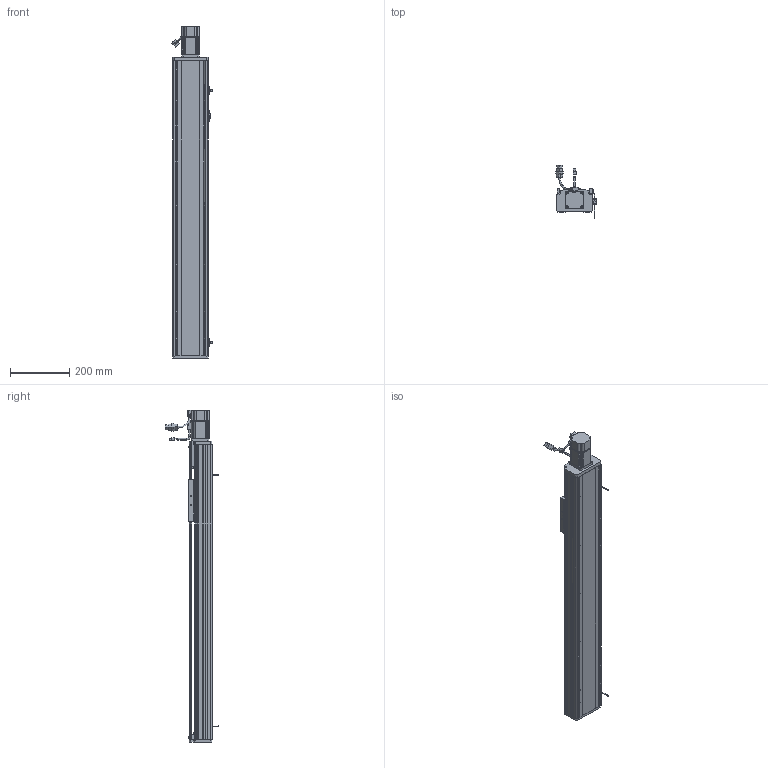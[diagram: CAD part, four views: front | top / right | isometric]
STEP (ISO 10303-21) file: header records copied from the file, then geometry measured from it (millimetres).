
FILE_DESCRIPTION (( 'STEP AP214' ), '1' );
FILE_NAME ('CTH120-750.STEP', '2019-11-20T02:43:09', ( '微软用户' ), ( '微软中国' ), 'SwSTEP 2.0', 'SolidWorks 2017', '' );
FILE_SCHEMA (( 'AUTOMOTIVE_DESIGN' ));
Length unit declared in the file: millimetre
Products named in the file (33): 120模组-盖子_默认<按加工>; M5-L12囀鞠褒蹟佪; 120耀郪-侜督儂啣; 怢湛200W侜督萇儂ECMA-CX0602ES; SFH1605; 盓傅釱蚾饜极; 136蹟簽蟀諉輸; 6000; 120模组-移动座_默认<按加工>; 120耀郪-盓傅釱; SFH1605-450; M4-L16囀鞠褒蹟佪; 120模组-底座_默认<按加工>; EGH15-CA; EGH15_RAIL; CTH120-750; 珨极宒粣創釱; 遣喳蝶15x12x8; M4-L10囀鞠褒蹟佪; M4-L22囀鞠褒蹟佪; 7001-DB; 7001; 噩砃EGH15-CA; 粣創揤啣; M3-L8囀鞠褒蹟佪; COL12B-粣遠; CT12耀郪-覜茼んえ; 坶踡蹟譫; EE-SX672-BR; 120耀郪-粣創釱; M4-L6半圆头内六角螺丝; 120耀郪-傷啣; M5-L20囀鞠褒蹟佪
Assembly tree (90 placements, depth 4):
  CTH120-750
    120模组-底座_默认<按加工>
    SFH1605-450
    120模组-移动座_默认<按加工>
    136蹟簽蟀諉輸
    SFH1605
    120耀郪-侜督儂啣
    120模组-盖子_默认<按加工>
    120耀郪-傷啣
    珨极宒粣創釱
      120耀郪-粣創釱
      坶踡蹟譫
      COL12B-粣遠  x2
      粣創揤啣
      7001-DB
        7001  x2
      M4-L22囀鞠褒蹟佪  x6
      M4-L10囀鞠褒蹟佪  x4
      遣喳蝶15x12x8
    EGH15_RAIL  x2
    EGH15-CA  x2
    M4-L16囀鞠褒蹟佪  x8
    M4-L10囀鞠褒蹟佪  x22
    盓傅釱蚾饜极
      120耀郪-盓傅釱
      6000
      遣喳蝶15x12x8  x2
      M4-L22囀鞠褒蹟佪  x2
    怢湛200W侜督萇儂ECMA-CX0602ES
    M5-L12囀鞠褒蹟佪  x3
    M5-L20囀鞠褒蹟佪  x4
    M4-L6半圆头内六角螺丝  x4
    EE-SX672-BR  x2
    CT12耀郪-覜茼んえ
    M3-L8囀鞠褒蹟佪  x4
    噩砃EGH15-CA  x2
Bounding box: 137.94 x 179.67 x 1122 mm (x, y, z)
Volume: 4280620 mm3; surface area: 1312554.7 mm2
Topology: 87 solids, 96 shells, 5368 faces, 14215 edges, 9101 vertices
Faces by surface type: plane 2891, cylinder 1594, cone 549, bspline 241, torus 81, sphere 12
Entity records: 115532 total; most frequent: CARTESIAN_POINT 34142, ORIENTED_EDGE 17192, DIRECTION 15481, EDGE_CURVE 8596, VERTEX_POINT 5643, AXIS2_PLACEMENT_3D 5287, VECTOR 4907, LINE 4907
